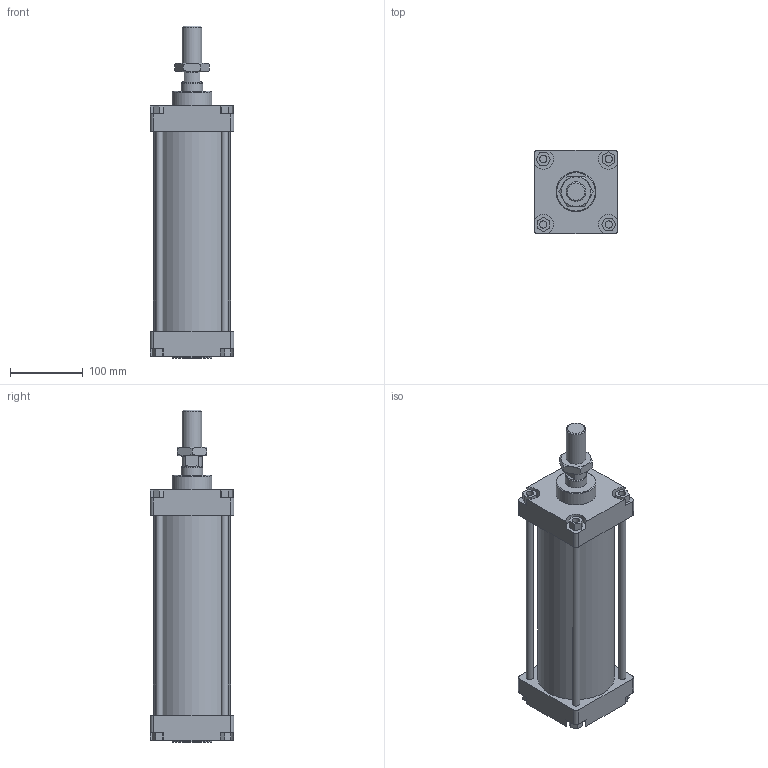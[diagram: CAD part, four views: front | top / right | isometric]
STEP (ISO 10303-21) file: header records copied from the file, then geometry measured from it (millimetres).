
FILE_DESCRIPTION(/* description */ (''),/* implementation_level */ '2;1');
FILE_NAME(/* name */ 'I:\Area Tecnica\Disegni\VARIE-3D\Componenti\CSP\Ø100\130#_100_####_###\1303_100_0200_01A.stp',/* time_stamp */ '2016-11-24T14:04:34+01:00',/* author */ ('Maniean1'),/* organization */ ('Pneumax S.p.A.'),/* preprocessor_version */ 'ST-DEVELOPER v15.2',/* originating_system */ 'Autodesk Inventor 2014',/* authorisation */ '');
FILE_SCHEMA (('AUTOMOTIVE_DESIGN { 1 0 10303 214 3 1 1 }'));
Length unit declared in the file: millimetre
Products named in the file (6): C_130#_100_0200; Testata anteriore_100; Testata posteriore_100; S_1303_100_0200_01A; 1300_100_18F; 1303_100_0200_01A
Bounding box: 115 x 115 x 457 mm (x, y, z)
Volume: 2033215.2 mm3; surface area: 402320.8 mm2
Topology: 9 solids, 9 shells, 162 faces, 380 edges, 249 vertices
Faces by surface type: plane 105, cylinder 42, cone 15
Full cylindrical faces by diameter (mm): 10 x12, 19 x2, 21.8 x1, 24.835 x1, 27 x1, 28 x1, 30 x3, 55 x2, 100 x2, 106 x1
Entity records: 4530 total; most frequent: CARTESIAN_POINT 785, DIRECTION 764, ORIENTED_EDGE 672, EDGE_CURVE 336, AXIS2_PLACEMENT_3D 271, VERTEX_POINT 244, EDGE_LOOP 236, LINE 222
